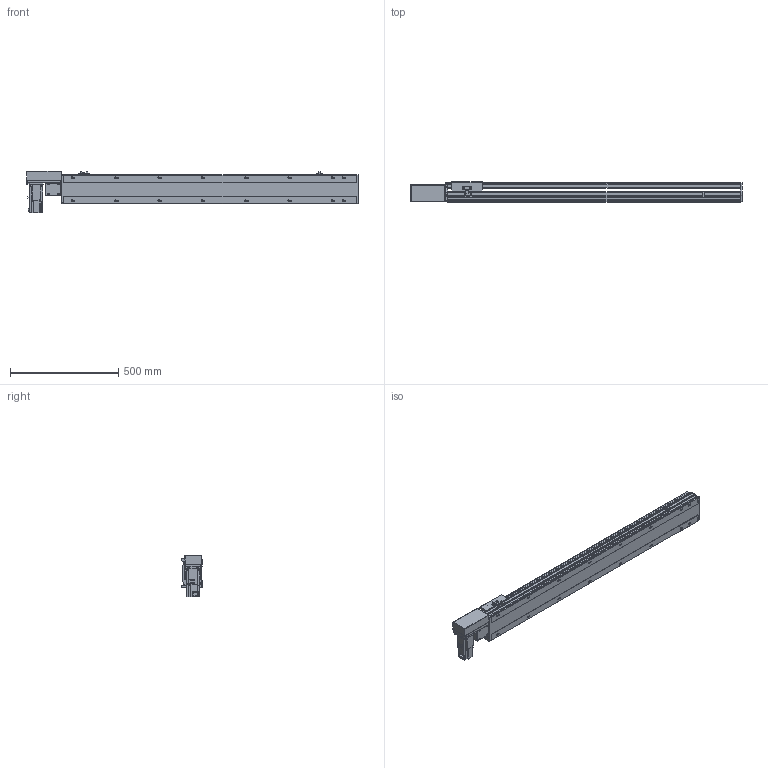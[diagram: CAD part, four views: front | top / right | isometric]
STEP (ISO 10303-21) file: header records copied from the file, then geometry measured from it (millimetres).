
FILE_DESCRIPTION(/* description */ ('STEP AP214'),/* implementation_level */ '2;1');
FILE_NAME(/* name */ 'PBS140S-P40-S1100-R-T40-C1-N(0)',/* time_stamp */ '2022-06-09T02:17:16+02:00',/* author */ ('License CC BY-ND 4.0'),/* organization */ ('CADENAS'),/* preprocessor_version */ 'ST-DEVELOPER v18.102',/* originating_system */ 'PARTsolutions',/* authorisation */ ' ');
FILE_SCHEMA (('AUTOMOTIVE_DESIGN {1 0 10303 214 3 1 1}'));
Length unit declared in the file: millimetre
Products named in the file (7): PBS140S-P40-S1100-R-T40-C1-N(0); PBS140S_sensor; PBS140S_plant; PBS140S_sliser; T40-p1; PBS140ST-R_motors; PBS140S-S1100()_body
Assembly tree (8 placements, depth 2):
  PBS140S-P40-S1100-R-T40-C1-N(0)
    PBS140S_sensor  x3
    PBS140S_plant
    PBS140S_sliser
    T40-p1
    PBS140ST-R_motors
    PBS140S-S1100()_body
Bounding box: 1533 x 93 x 189.7 mm (x, y, z)
Volume: 7493258.7 mm3; surface area: 1294256.8 mm2
Topology: 8 solids, 8 shells, 1099 faces, 2911 edges, 1905 vertices
Faces by surface type: plane 702, cylinder 345, cone 42, sphere 8, torus 2
Full cylindrical faces by diameter (mm): 3.242 x4, 4 x2, 4.134 x4, 4.4 x8, 4.5 x2, 4.8 x4, 4.917 x24, 5.5 x7, 6 x2, 7 x18, 7.5 x8, 8 x12, 8.5 x4, 10.5 x16, 14 x1, 30 x2, 50 x2
Entity records: 31496 total; most frequent: CARTESIAN_POINT 5816, DIRECTION 5348, ORIENTED_EDGE 5062, EDGE_CURVE 2531, AXIS2_PLACEMENT_3D 1859, VERTEX_POINT 1753, LINE 1630, VECTOR 1630
